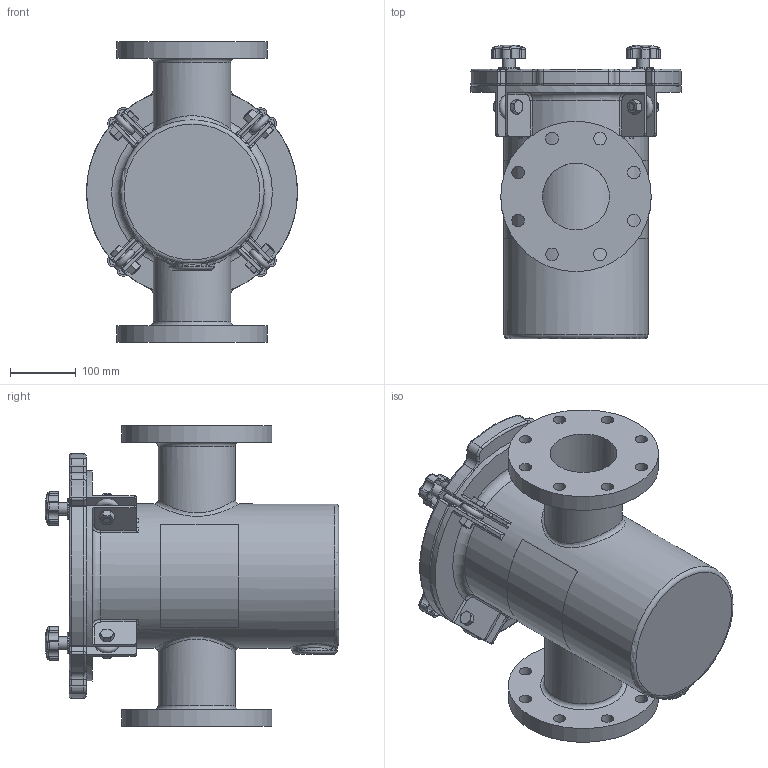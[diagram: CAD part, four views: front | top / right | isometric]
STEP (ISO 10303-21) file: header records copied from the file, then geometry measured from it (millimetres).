
FILE_DESCRIPTION(/* description */ ('STRAINER BODY'),/* implementation_level */ '2;1');
FILE_NAME(/* name */ '\\chntshnas1\IP_PUMPS\NeptuneBenson\Project Execution\WIP\Ready for delivery - Do not Disturb -Updated with metric Flange\Workspace\FG Straight Strainer\1500NBFG04R1.stp',/* time_stamp */ '2016-10-18T19:37:57+05:00',/* author */ ('20076253'),/* organization */ (''),/* preprocessor_version */ 'ST-DEVELOPER v16.1',/* originating_system */ 'Autodesk Inventor 2016',/* authorisation */ '');
FILE_SCHEMA (('AUTOMOTIVE_DESIGN { 1 0 10303 214 3 1 1 }'));
Length unit declared in the file: inch
Products named in the file (18): NBFG04BODYR1; 150NBCVR13R1; 150NBGSK08R1; Perforated Basket 8in; Bride (Ring) 8in; Baffle 8in; Handle 8in; Bottom Strainer 8in; NBBSK04T316; Nut- 1_2  UNC; Bolt-1_2 x 1 1_2  UNC; EyeBolt; Washer; Knob M10; Securing Assembly For FG without Brace; Label for 8.625 inch (Right); Label for 8.625 inch (Left); Guardian FG H&L Strainer (Inch)
Assembly tree (20 placements, depth 3):
  Guardian FG H&L Strainer (Inch)
    NBFG04BODYR1
    150NBCVR13R1
    150NBGSK08R1
    NBBSK04T316
      Perforated Basket 8in
      Bride (Ring) 8in
      Baffle 8in
      Handle 8in
      Bottom Strainer 8in
    Securing Assembly For FG without Brace  x4
      Nut- 1_2  UNC
      Bolt-1_2 x 1 1_2  UNC
      EyeBolt
      Washer
      Knob M10
    Label for 8.625 inch (Right)
    Label for 8.625 inch (Left)
Bounding box: 320.68 x 446.18 x 457.2 mm (x, y, z)
Volume: 7647620 mm3; surface area: 1790117.6 mm2
Topology: 30 solids, 30 shells, 931 faces, 2140 edges, 1271 vertices
Faces by surface type: cylinder 344, plane 248, torus 94, cone 92, bspline 85, sphere 68
Full cylindrical faces by diameter (mm): 3.175 x10, 6.35 x1, 8.382 x4, 9.525 x8, 10.592 x4, 12.7 x4, 15.875 x8, 19 x8, 19.05 x20, 22.809 x1, 31.75 x4, 101.6 x2, 117.475 x2, 142.875 x2, 146.05 x1, 148.59 x1, 203.2 x2, 212.725 x1, 219.075 x1, 222.25 x1, 228.6 x2, 257.175 x1, 263.525 x1
Entity records: 20563 total; most frequent: CARTESIAN_POINT 7028, DIRECTION 2811, ORIENTED_EDGE 2506, EDGE_CURVE 1253, AXIS2_PLACEMENT_3D 1189, VERTEX_POINT 801, EDGE_LOOP 746, CIRCLE 589
